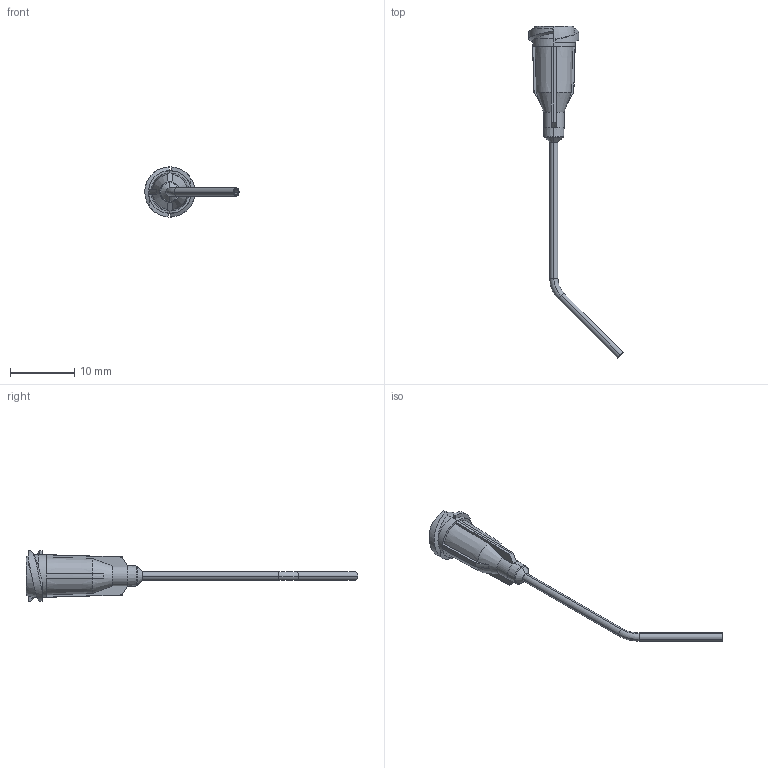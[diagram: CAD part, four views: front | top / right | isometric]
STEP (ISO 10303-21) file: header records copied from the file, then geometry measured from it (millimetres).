
FILE_DESCRIPTION (( 'STEP AP214' ), '1' );
FILE_NAME ('NORDSONEFD-7016907 18GA PICKUP TIP ID 033 GREEN.STEP', '2019-03-14T19:05:03', ( '' ), ( '' ), 'SwSTEP 2.0', 'SolidWorks 2019', '' );
FILE_SCHEMA (( 'AUTOMOTIVE_DESIGN' ));
Length unit declared in the file: inch
Products named in the file (1): NORDSONEFD-7016907 18GA PICKUP TIP ID 033 GREEN
Bounding box: 14.71 x 51.78 x 7.82 mm (x, y, z)
Volume: 286.5 mm3; surface area: 809.6 mm2
Topology: 1 solids, 1 shells, 128 faces, 294 edges, 172 vertices
Faces by surface type: torus 38, cylinder 30, plane 26, cone 22, bspline 12
Entity records: 4484 total; most frequent: CARTESIAN_POINT 1129, DIRECTION 638, ORIENTED_EDGE 588, EDGE_CURVE 294, AXIS2_PLACEMENT_3D 283, VERTEX_POINT 172, CIRCLE 166, EDGE_LOOP 134
